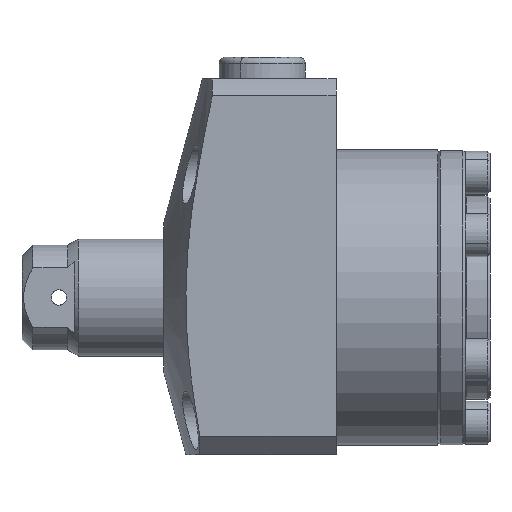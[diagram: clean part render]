
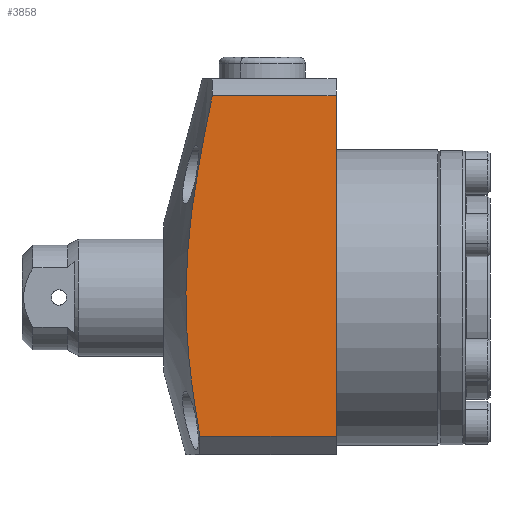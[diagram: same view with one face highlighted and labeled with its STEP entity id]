
A CAD part, left-side view. The second image highlights one B-rep face of the part: STEP entity #3858.
In plain terms, the highlighted planar face has unit normal (-1, 0, 0).
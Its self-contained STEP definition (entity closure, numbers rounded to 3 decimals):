
#106 = CARTESIAN_POINT ( 'NONE',  ( -25.5, 23.527, -13.298 ) ) ;
#125 = CARTESIAN_POINT ( 'NONE',  ( -25.5, 21.911, 23.626 ) ) ;
#169 = B_SPLINE_CURVE_WITH_KNOTS ( 'NONE', 3,
 ( #1919, #5079, #2833, #106, #3302, #567, #3756, #1026, #4206, #1484, #4667, #1942, #5116, #2411, #5577, #2853, #125, #3327, #586, #3771 ),
 .UNSPECIFIED., .F., .F.,
 ( 4, 2, 2, 2, 2, 2, 2, 2, 2, 4 ),
 ( 0.028, 0.035, 0.042, 0.049, 0.056, 0.063, 0.067, 0.07, 0.077, 0.084 ),
 .UNSPECIFIED. ) ;
#194 = ORIENTED_EDGE ( 'NONE', *, *, #2402, .F. ) ;
#345 = CARTESIAN_POINT ( 'NONE',  ( -25.5, 0., 32.741 ) ) ;
#467 = LINE ( 'NONE', #345, #2899 ) ;
#567 = CARTESIAN_POINT ( 'NONE',  ( -25.5, 24.196, -6.382 ) ) ;
#586 = CARTESIAN_POINT ( 'NONE',  ( -25.5, 20.576, 30.469 ) ) ;
#752 = VERTEX_POINT ( 'NONE', #3627 ) ;
#805 = LINE ( 'NONE', #1106, #4143 ) ;
#846 = CARTESIAN_POINT ( 'NONE',  ( -25.5, 0., -22.5 ) ) ;
#914 = PLANE ( 'NONE',  #4632 ) ;
#1026 = CARTESIAN_POINT ( 'NONE',  ( -25.5, 24.409, 0.543 ) ) ;
#1106 = CARTESIAN_POINT ( 'NONE',  ( -25.5, 0., -25.5 ) ) ;
#1484 = CARTESIAN_POINT ( 'NONE',  ( -25.5, 24.121, 7.479 ) ) ;
#1486 = DIRECTION ( 'NONE',  ( 0., -1., 0. ) ) ;
#1855 = EDGE_CURVE ( 'NONE', #2029, #3388, #3234, .T. ) ;
#1919 = CARTESIAN_POINT ( 'NONE',  ( -25.5, 22.103, -22.5 ) ) ;
#1942 = CARTESIAN_POINT ( 'NONE',  ( -25.5, 23.518, 13.267 ) ) ;
#2029 = VERTEX_POINT ( 'NONE', #2115 ) ;
#2115 = CARTESIAN_POINT ( 'NONE',  ( -25.5, 22.103, -22.5 ) ) ;
#2286 = DIRECTION ( 'NONE',  ( 1., 0., 0. ) ) ;
#2402 = EDGE_CURVE ( 'NONE', #2029, #3237, #169, .T. ) ;
#2411 = CARTESIAN_POINT ( 'NONE',  ( -25.5, 23.047, 16.736 ) ) ;
#2477 = EDGE_CURVE ( 'NONE', #752, #3388, #805, .T. ) ;
#2542 = ORIENTED_EDGE ( 'NONE', *, *, #4309, .T. ) ;
#2833 = CARTESIAN_POINT ( 'NONE',  ( -25.5, 22.883, -17.904 ) ) ;
#2837 = CARTESIAN_POINT ( 'NONE',  ( -25.5, 28., -22.5 ) ) ;
#2853 = CARTESIAN_POINT ( 'NONE',  ( -25.5, 22.32, 21.336 ) ) ;
#2899 = VECTOR ( 'NONE', #3085, 1000. ) ;
#3085 = DIRECTION ( 'NONE',  ( 0., 1., 0. ) ) ;
#3234 = LINE ( 'NONE', #2837, #4443 ) ;
#3237 = VERTEX_POINT ( 'NONE', #3859 ) ;
#3260 = FACE_OUTER_BOUND ( 'NONE', #3740, .T. ) ;
#3302 = CARTESIAN_POINT ( 'NONE',  ( -25.5, 23.798, -10.994 ) ) ;
#3327 = CARTESIAN_POINT ( 'NONE',  ( -25.5, 21.039, 28.192 ) ) ;
#3388 = VERTEX_POINT ( 'NONE', #846 ) ;
#3627 = CARTESIAN_POINT ( 'NONE',  ( -25.5, 0., 32.741 ) ) ;
#3740 = EDGE_LOOP ( 'NONE', ( #194, #4959, #3969, #2542 ) ) ;
#3756 = CARTESIAN_POINT ( 'NONE',  ( -25.5, 24.324, -4.075 ) ) ;
#3771 = CARTESIAN_POINT ( 'NONE',  ( -25.5, 20.095, 32.741 ) ) ;
#3836 = DIRECTION ( 'NONE',  ( 0., 0., -1. ) ) ;
#3858 = ADVANCED_FACE ( 'NONE', ( #3260 ), #914, .F. ) ;
#3859 = CARTESIAN_POINT ( 'NONE',  ( -25.5, 20.095, 32.741 ) ) ;
#3969 = ORIENTED_EDGE ( 'NONE', *, *, #2477, .F. ) ;
#4143 = VECTOR ( 'NONE', #3836, 1000. ) ;
#4206 = CARTESIAN_POINT ( 'NONE',  ( -25.5, 24.367, 2.854 ) ) ;
#4309 = EDGE_CURVE ( 'NONE', #752, #3237, #467, .T. ) ;
#4443 = VECTOR ( 'NONE', #1486, 1000. ) ;
#4632 = AXIS2_PLACEMENT_3D ( 'NONE', #5006, #2286, #5459 ) ;
#4667 = CARTESIAN_POINT ( 'NONE',  ( -25.5, 23.918, 9.794 ) ) ;
#4959 = ORIENTED_EDGE ( 'NONE', *, *, #1855, .T. ) ;
#5006 = CARTESIAN_POINT ( 'NONE',  ( -25.5, 28., 35.5 ) ) ;
#5079 = CARTESIAN_POINT ( 'NONE',  ( -25.5, 22.51, -20.207 ) ) ;
#5116 = CARTESIAN_POINT ( 'NONE',  ( -25.5, 23.369, 14.426 ) ) ;
#5459 = DIRECTION ( 'NONE',  ( 0., 0., -1. ) ) ;
#5577 = CARTESIAN_POINT ( 'NONE',  ( -25.5, 22.873, 17.888 ) ) ;
